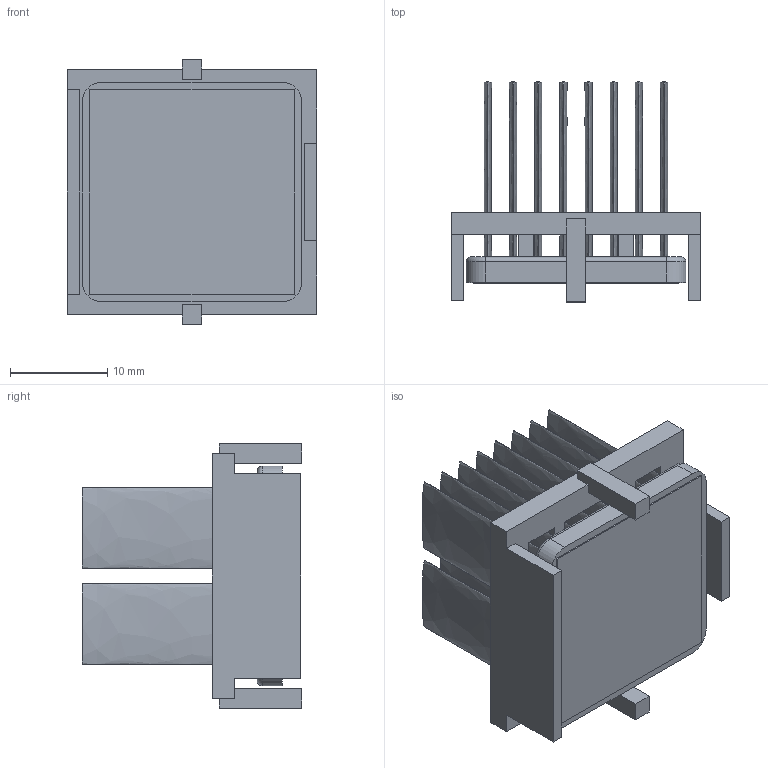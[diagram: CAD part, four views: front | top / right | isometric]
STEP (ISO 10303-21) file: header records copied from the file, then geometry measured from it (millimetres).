
FILE_DESCRIPTION (( 'STEP AP214' ), '1' );
FILE_NAME ('INM23001-21W_2.6+BU.STEP', '2023-02-15T19:17:51', ( '' ), ( '' ), 'SwSTEP 2.0', 'SolidWorks 2020', '' );
FILE_SCHEMA (( 'AUTOMOTIVE_DESIGN' ));
Length unit declared in the file: millimetre
Products named in the file (1): INM23001-21W_2.6+BU
Bounding box: 25.7 x 22.6 x 27.2 mm (x, y, z)
Volume: 3872 mm3; surface area: 8765.6 mm2
Topology: 3 solids, 3 shells, 126 faces, 304 edges, 200 vertices
Faces by surface type: plane 82, bspline 32, cylinder 8, torus 4
Entity records: 5142 total; most frequent: CARTESIAN_POINT 1047, ORIENTED_EDGE 608, DIRECTION 450, EDGE_CURVE 304, VECTOR 220, LINE 220, VERTEX_POINT 200, EDGE_LOOP 144
